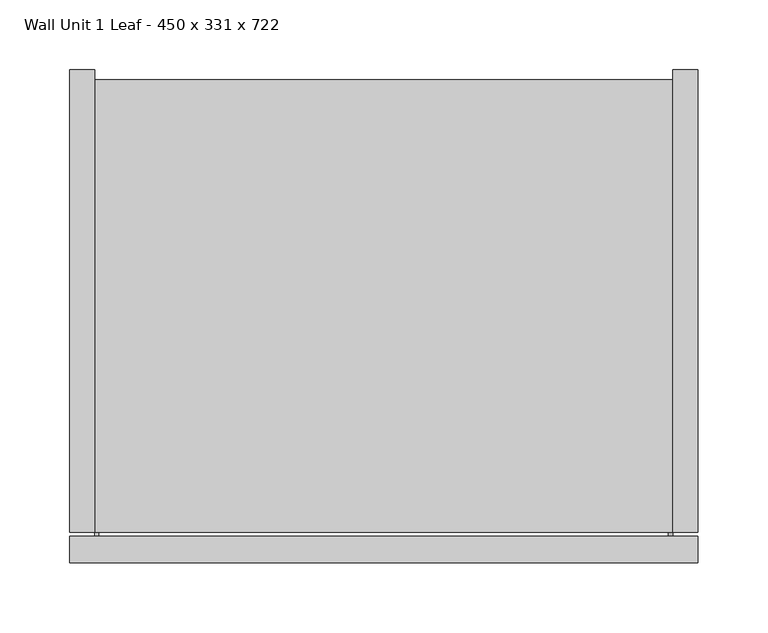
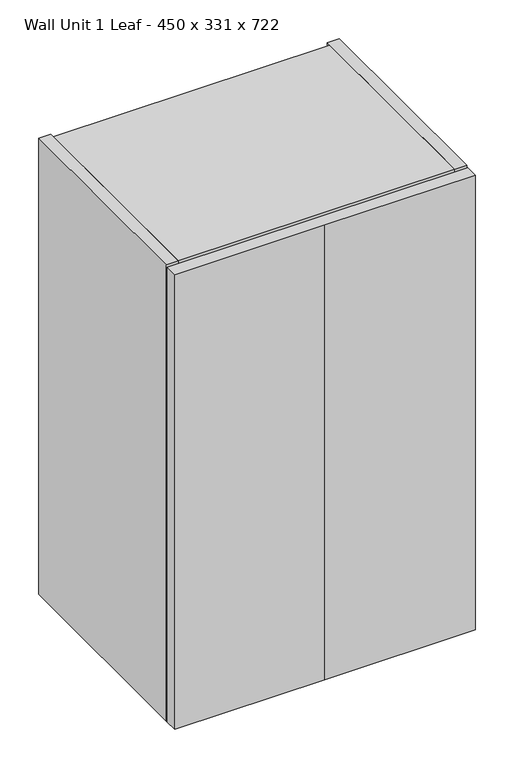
"""IFC4 building model written with IfcOpenShell, lengths in millimetres: furniture geometry, Furniture_Other-Furniture_Molteni&C_Prime_Wall-Unit-SP-1-Leaf_331mm : Wall Unit 1 Leaf - 450 x 331 x 722."""

from ifc_helpers import new_model, si_unit, frame, origin, origin_with_axes, place, context, project, spatial, polyline, circle_curve, outline, extrude, faceted_brep, source, transform, mapped, element, save
from ifc_brep_helpers import plane_surface, cylinder_surface, advanced_brep


def wall_unit_1_leaf_450_x_331_x_722_4ee17443(model_context):
    return source(origin(), model_context, "Body", "SolidModel", [
        advanced_brep(
        [(207.0, -143.5, 0.0), (207.0, 150.0, 0.0), (207.0, 150.0, 22.0), (207.0, 145.5, 22.0), (207.0, 145.5, 17.0), (207.0, 137.5, 17.0), (207.0, 137.5, 22.0), (207.0, -165.5, 22.0), (207.0, -165.5, 21.0), (207.0, -165.5, 16.0), (207.0, -165.5, 15.0), (207.0, -143.5, 15.0), (-207.0, -143.5, 0.0), (-207.0, -143.5, 15.0), (-207.0, -165.5, 15.0), (-207.0, -165.5, 16.0), (-207.0, -165.5, 21.0), (-207.0, -165.5, 22.0), (-207.0, 137.5, 22.0), (-207.0, 137.5, 17.0), (-207.0, 145.5, 17.0), (-207.0, 145.5, 22.0), (-207.0, 150.0, 22.0), (-207.0, 150.0, 0.0), (-204.1557889, -165.5, 21.0), (-204.1557889, -165.5, 16.0), (204.0123099, -165.5, 16.0), (204.0123099, -165.5, 21.0)],
        [
            (0, 1),
            (1, 2),
            (2, 3),
            (3, 4),
            (4, 5),
            (5, 6),
            (6, 7),
            (7, 8),
            (8, 9, circle_curve(frame((207.0, -165.5, 18.5), z_axis=(1.0, 0.0, 0.0), x_axis=(0.0, 1.0, 0.0)), 2.5)),
            (9, 10),
            (10, 11),
            (11, 0),
            (12, 13),
            (13, 14),
            (14, 15),
            (15, 16, circle_curve(frame((-207.0, -165.5, 18.5), z_axis=(-1.0, 0.0, 0.0), x_axis=(0.0, 1.0, 0.0)), 2.5)),
            (16, 17),
            (17, 18),
            (18, 19),
            (19, 20),
            (20, 21),
            (21, 22),
            (22, 23),
            (23, 12),
            (0, 12),
            (23, 1),
            (22, 2),
            (21, 3),
            (20, 4),
            (19, 5),
            (18, 6),
            (17, 7),
            (16, 24),
            (24, 25),
            (25, 15),
            (14, 10),
            (9, 26),
            (26, 27),
            (27, 8),
            (13, 11),
            (24, 25, circle_curve(frame((-204.1557889, -165.5, 18.5), z_axis=(1.0, 0.0, 0.0), x_axis=(0.0, 1.0, 0.0)), 2.5)),
            (26, 27, circle_curve(frame((204.0123099, -165.5, 18.5), z_axis=(-1.0, 0.0, 0.0), x_axis=(0.0, 1.0, 0.0)), 2.5)),
        ],
        [
            plane_surface(frame((207.0, 150.0, 0.0), z_axis=(1.0, 0.0, 0.0), x_axis=(0.0, 1.0, 0.0))),
            plane_surface(frame((-207.0, 150.0, 0.0), z_axis=(-1.0, 0.0, 0.0), x_axis=(0.0, -1.0, 0.0))),
            plane_surface(frame((207.0, -143.5, 0.0), z_axis=(0.0, 0.0, -1.0), x_axis=(-1.0, 0.0, 0.0))),
            plane_surface(frame((207.0, 150.0, 0.0), z_axis=(0.0, 1.0, 0.0), x_axis=(-1.0, 0.0, 0.0))),
            plane_surface(frame((207.0, 150.0, 22.0), z_axis=(0.0, 0.0, 1.0), x_axis=(-1.0, 0.0, 0.0))),
            plane_surface(frame((207.0, 145.5, 22.0), z_axis=(0.0, -1.0, 0.0), x_axis=(-1.0, 0.0, 0.0))),
            plane_surface(frame((207.0, 145.5, 17.0), z_axis=(0.0, 0.0, 1.0), x_axis=(-1.0, 0.0, 0.0))),
            plane_surface(frame((207.0, 137.5, 17.0), z_axis=(0.0, 1.0, 0.0), x_axis=(-1.0, 0.0, 0.0))),
            plane_surface(frame((207.0, 137.5, 22.0), z_axis=(0.0, 0.0, 1.0), x_axis=(-1.0, 0.0, 0.0))),
            plane_surface(frame((207.0, -165.5, 22.0), z_axis=(0.0, -1.0, 0.0), x_axis=(-1.0, 0.0, 0.0))),
            plane_surface(frame((207.0, -165.5, 15.0), z_axis=(0.0, 0.0, -1.0), x_axis=(-1.0, 0.0, 0.0))),
            plane_surface(frame((207.0, -143.5, 15.0), z_axis=(0.0, -1.0, 0.0), x_axis=(-1.0, 0.0, 0.0))),
            plane_surface(frame((-204.1557889, -165.5, 16.0), z_axis=(1.0, 0.0, 0.0), x_axis=(0.0, 0.0, 1.0))),
            cylinder_surface(frame((-207.0, -165.5, 18.5), z_axis=(1.0, 0.0, 0.0), x_axis=(0.0, 1.0, 0.0)), 2.5),
            plane_surface(frame((204.0123099, -163.0, 18.5), z_axis=(-1.0, 0.0, 0.0), x_axis=(0.0, 0.0, -1.0))),
            cylinder_surface(frame((207.0, -165.5, 18.5), z_axis=(-1.0, 0.0, 0.0), x_axis=(0.0, 1.0, 0.0)), 2.5),
        ],
        [
            (0, [[1, 2, 3, 4, 5, 6, 7, 8, 9, 10, 11, 12]]),
            (1, [[13, 14, 15, 16, 17, 18, 19, 20, 21, 22, 23, 24]]),
            (2, [[-1, 25, -24, 26]]),
            (3, [[-2, -26, -23, 27]]),
            (4, [[-3, -27, -22, 28]]),
            (5, [[-4, -28, -21, 29]]),
            (6, [[-5, -29, -20, 30]]),
            (7, [[-6, -30, -19, 31]]),
            (8, [[-7, -31, -18, 32]]),
            (9, [[-32, -17, 33, 34, 35, -15, 36, -10, 37, 38, 39, -8]]),
            (10, [[-11, -36, -14, 40]]),
            (11, [[-12, -40, -13, -25]]),
            (12, [[41, -34]]),
            (13, [[-41, -33, -16, -35]]),
            (14, [[42, -38]]),
            (15, [[-9, -39, -42, -37]]),
        ],
    ),
        faceted_brep([(-225.0, -165.5, 722.0), (-207.0, -165.5, 722.0), (-207.0, 165.5, 722.0), (-225.0, 165.5, 722.0), (-225.0, -165.5, 0.0), (-225.0, 165.5, 0.0), (-207.0, 165.5, 0.0), (-207.0, -165.5, 0.0), (-207.0, 137.5, 17.0), (-207.0, 137.5, 704.0), (-207.0, 145.5, 704.0), (-207.0, 145.5, 17.0), (225.0, -165.5, 722.0), (225.0, 165.5, 722.0), (207.0, 165.5, 722.0), (207.0, -165.5, 722.0), (225.0, -165.5, 0.0), (207.0, -165.5, 0.0), (207.0, 165.5, 0.0), (225.0, 165.5, 0.0), (207.0, 137.5, 704.0), (207.0, 137.5, 17.0), (207.0, 145.5, 17.0), (207.0, 145.5, 704.0)], [[[0, 1, 2, 3]], [[4, 5, 6, 7]], [[1, 0, 4, 7]], [[2, 1, 7, 6], [8, 9, 10, 11]], [[3, 2, 6, 5]], [[0, 3, 5, 4]], [[12, 13, 14, 15]], [[16, 17, 18, 19]], [[12, 15, 17, 16]], [[15, 14, 18, 17], [20, 21, 22, 23]], [[14, 13, 19, 18]], [[13, 12, 16, 19]], [[20, 9, 8, 21]], [[21, 8, 11, 22]], [[22, 11, 10, 23]], [[9, 20, 23, 10]]]),
        extrude(outline(polyline([(207.0, 137.5), (207.0, -165.5), (-207.0, -165.5), (-207.0, 137.5), (207.0, 137.5)])), frame((0.0, 0.0, 350.0), z_axis=(0.0, 0.0, 1.0), x_axis=(1.0, 0.0, 0.0)), (0.0, 0.0, 1.0), 22.0),
        extrude(outline(polyline([(-165.5, 722.0), (158.5, 722.0), (158.5, 700.0), (145.5, 700.0), (145.5, 704.0), (137.5, 704.0), (137.5, 700.0), (-165.5, 700.0), (-165.5, 722.0)])), frame((-207.0, 0.0, 0.0), z_axis=(1.0, 0.0, 0.0), x_axis=(0.0, 1.0, 0.0)), (0.0, 0.0, 1.0), 414.0),
        extrude(outline(polyline([(-0.3822432, -187.5), (-225.0, -187.5), (-225.0, -168.5), (-1.6098784, -168.5), (225.0, -168.5), (225.0, -187.5), (-0.3822432, -187.5)])), origin_with_axes(), (0.0, 0.0, 1.0), 719.9973284),
    ])


if __name__ == "__main__":
    model = new_model("IFC4")
    model_context = context("Model", 3, world=origin())
    ifc_project = project(units=[si_unit("LENGTHUNIT", "METRE", prefix="MILLI")], contexts=[model_context])
    site = spatial("IfcSite", under=ifc_project)
    building = spatial("IfcBuilding", under=site)
    placement = place(None, origin())
    wall_unit_1_leaf_450_x_331_x_722_shape = wall_unit_1_leaf_450_x_331_x_722_4ee17443(model_context)
    element("IfcFurniture", 1, ObjectType="Furniture_Other-Furniture_Molteni&C_Prime_Wall-Unit-SP-1-Leaf_331mm : Wall Unit 1 Leaf - 450 x 331 x 722", at=placement, inside=building, context=model_context, shape_type="MappedRepresentation", body=[
        mapped(wall_unit_1_leaf_450_x_331_x_722_shape, transform((0.0, 0.0, 0.0), x_axis=(1.0, 0.0, 0.0), y_axis=(0.0, 1.0, 0.0), z_axis=(0.0, 0.0, 1.0))),
    ])
    save(model, "model.ifc")
